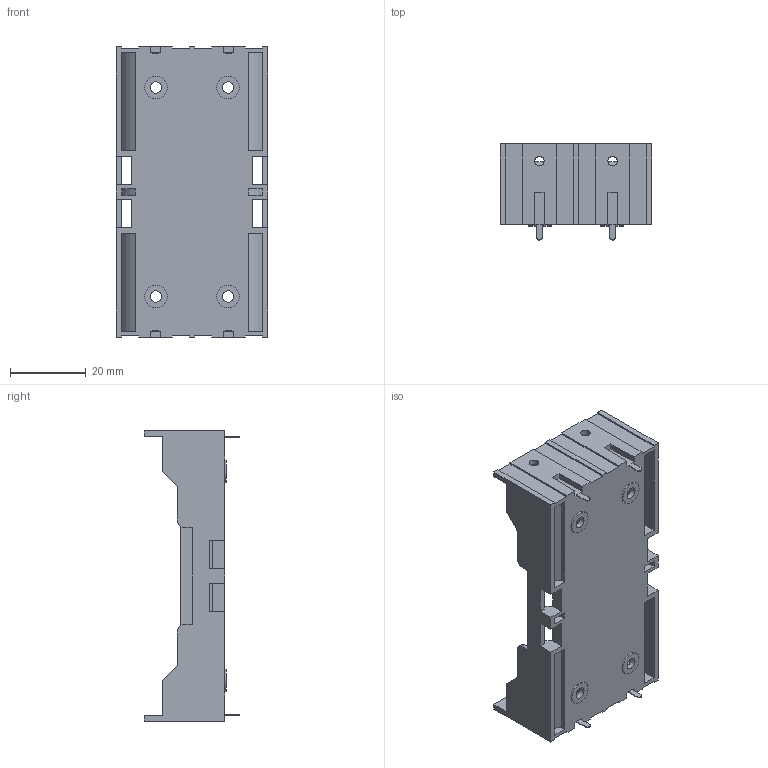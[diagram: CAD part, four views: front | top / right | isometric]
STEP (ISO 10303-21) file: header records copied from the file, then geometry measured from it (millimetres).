
FILE_DESCRIPTION(('STEP AP203'), '1');
FILE_NAME('18650_battery_case_x2.m3d_kak est', '', ('UNSPECIFIED'), ('UNSPECIFIED'), 'C3D Converter', 'C3D Toolkit', '');
FILE_SCHEMA(('CONFIG_CONTROL_DESIGN'));
Length unit declared in the file: millimetre
Bounding box: 40 x 25.2 x 76.5 mm (x, y, z)
Volume: 9658.1 mm3; surface area: 15869.1 mm2
Topology: 1 solids, 1 shells, 268 faces, 800 edges, 544 vertices
Faces by surface type: plane 212, cylinder 56
Full cylindrical faces by diameter (mm): 2.5 x4, 3 x4, 6 x8
Entity records: 9436 total; most frequent: CARTESIAN_POINT 1597, ORIENTED_EDGE 1568, DIRECTION 1482, EDGE_CURVE 784, LINE 624, VECTOR 624, VERTEX_POINT 544, AXIS2_PLACEMENT_3D 429
